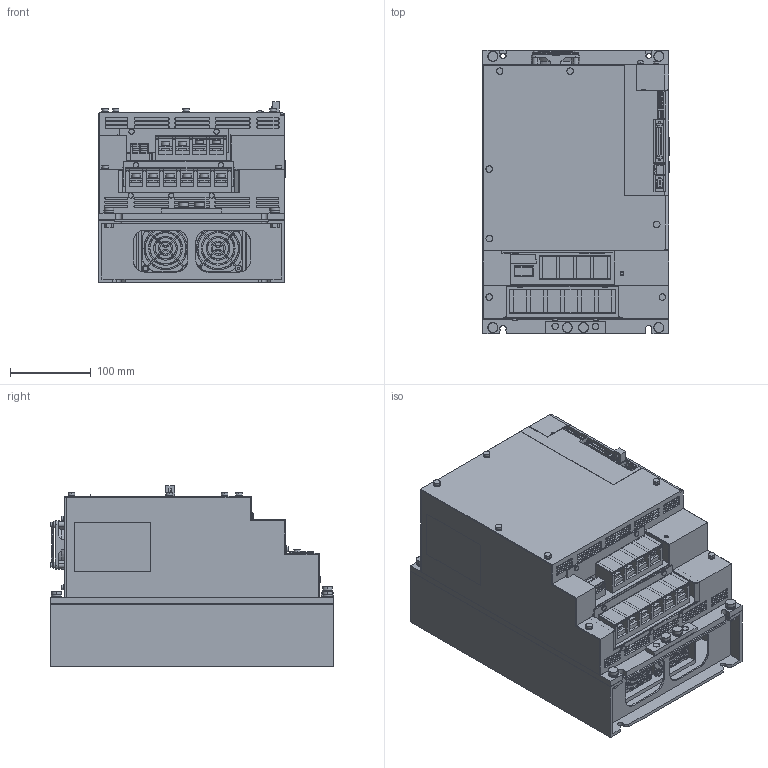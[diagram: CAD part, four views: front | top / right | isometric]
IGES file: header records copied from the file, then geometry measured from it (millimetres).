
Start section: SolidWorks IGES file using analytic representation for surfaces
Global section: file name: C:\YASKAWA\sgdv_260d0_a.IGS; native system: SolidWorks 2006 by SolidWorks Corporation; preprocessor: SolidWorks 2006 by SolidWorks Corporation; author: yamanouchi; date: 090513.220606; units: millimetre
Bounding box: 230.6 x 350 x 223 mm (x, y, z)
Surface area: 643928 mm2 (no closed solid volume)
Topology: 0 solids, 0 shells, 2695 faces, 30287 edges, 30287 vertices
Faces by surface type: bspline 2081, revolution 614
